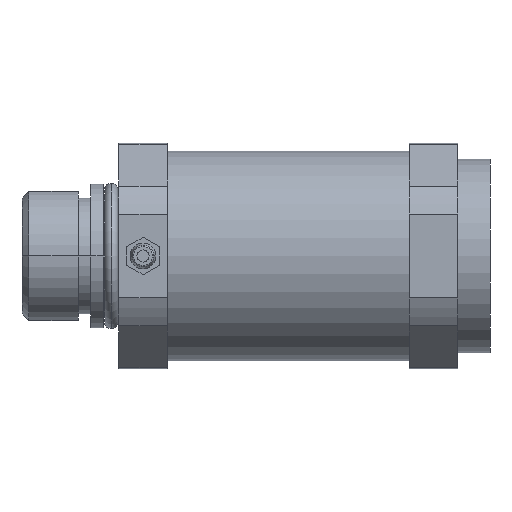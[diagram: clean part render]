
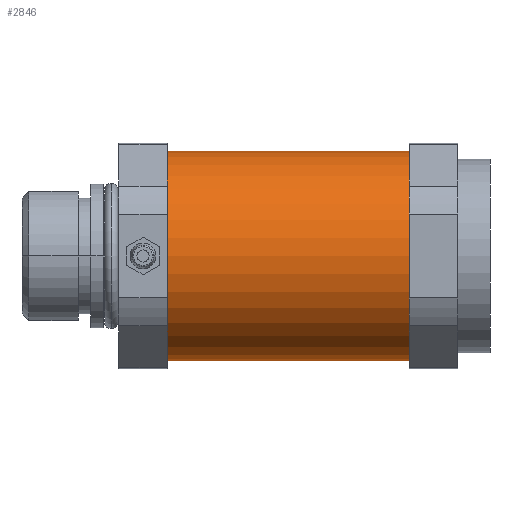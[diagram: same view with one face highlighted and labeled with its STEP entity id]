
A CAD part, front view. The second image highlights one B-rep face of the part: STEP entity #2846.
In plain terms, the highlighted cylindrical face has radius 0.812 mm (diameter 1.625 mm), a partial arc.
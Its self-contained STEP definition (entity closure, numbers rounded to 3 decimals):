
#2805=CARTESIAN_POINT('',(-2.5,0.0,0.0));
#2806=DIRECTION('',(1.0,0.0,0.0));
#2807=DIRECTION('',(0.0,0.0,-1.0));
#2808=AXIS2_PLACEMENT_3D('',#2805,#2806,#2807);
#2809=CYLINDRICAL_SURFACE('',#2808,0.813);
#2810=CARTESIAN_POINT('',(-0.625,0.0,-0.813));
#2811=VERTEX_POINT('',#2810);
#2812=CARTESIAN_POINT('',(-2.5,0.0,-0.813));
#2813=VERTEX_POINT('',#2812);
#2814=CARTESIAN_POINT('',(-0.625,0.0,-0.813));
#2815=DIRECTION('',(-1.0,0.0,0.0));
#2816=VECTOR('',#2815,1.875);
#2817=LINE('',#2814,#2816);
#2818=EDGE_CURVE('',#2811,#2813,#2817,.T.);
#2819=ORIENTED_EDGE('',*,*,#2818,.F.);
#2820=CARTESIAN_POINT('',(-0.625,0.,0.813));
#2821=VERTEX_POINT('',#2820);
#2822=CARTESIAN_POINT('',(-0.625,0.0,0.0));
#2823=DIRECTION('',(-1.0,0.0,0.0));
#2824=DIRECTION('',(0.0,0.0,-1.0));
#2825=AXIS2_PLACEMENT_3D('',#2822,#2823,#2824);
#2826=CIRCLE('',#2825,0.813);
#2827=EDGE_CURVE('',#2811,#2821,#2826,.T.);
#2828=ORIENTED_EDGE('',*,*,#2827,.T.);
#2829=CARTESIAN_POINT('',(-2.5,0.,0.813));
#2830=VERTEX_POINT('',#2829);
#2831=CARTESIAN_POINT('',(-0.625,0.,0.813));
#2832=DIRECTION('',(-1.0,0.0,0.0));
#2833=VECTOR('',#2832,1.875);
#2834=LINE('',#2831,#2833);
#2835=EDGE_CURVE('',#2821,#2830,#2834,.T.);
#2836=ORIENTED_EDGE('',*,*,#2835,.T.);
#2837=CARTESIAN_POINT('',(-2.5,0.0,0.0));
#2838=DIRECTION('',(1.0,0.0,0.0));
#2839=DIRECTION('',(0.0,0.0,-1.0));
#2840=AXIS2_PLACEMENT_3D('',#2837,#2838,#2839);
#2841=CIRCLE('',#2840,0.813);
#2842=EDGE_CURVE('',#2830,#2813,#2841,.T.);
#2843=ORIENTED_EDGE('',*,*,#2842,.T.);
#2844=EDGE_LOOP('',(#2819,#2828,#2836,#2843));
#2845=FACE_OUTER_BOUND('',#2844,.T.);
#2846=ADVANCED_FACE('',(#2845),#2809,.T.);
